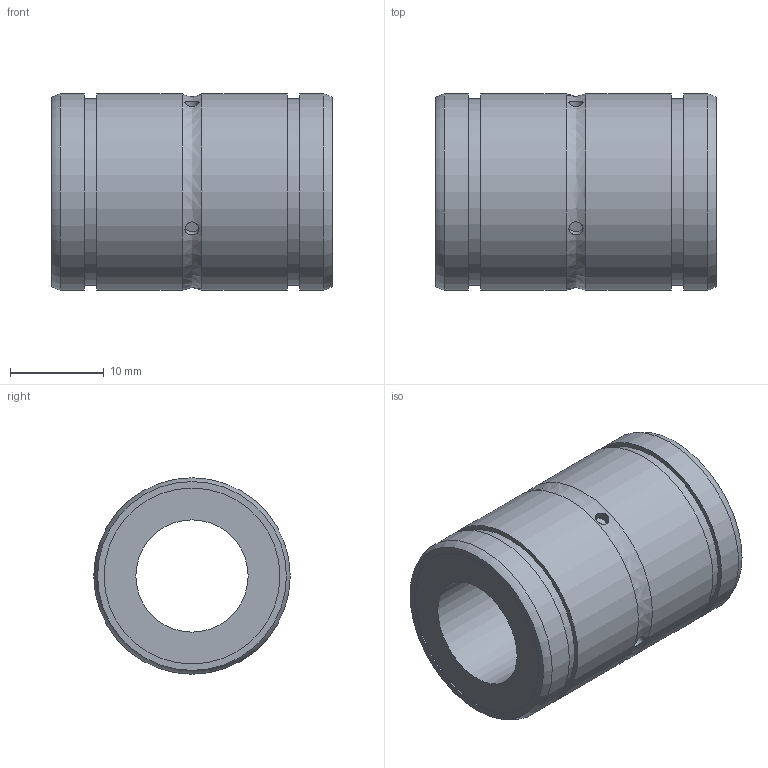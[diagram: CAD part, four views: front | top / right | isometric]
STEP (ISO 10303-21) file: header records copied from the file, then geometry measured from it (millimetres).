
FILE_DESCRIPTION((''),'2;1');
FILE_NAME('D:\製品 (図面)\カタログ用3D\リニアベアリング関連\STEP形式\L-OH\L12-OH.stp','2010-06-04T09:29:34',('Tsuchiya'),(''),'Autodesk Inventor 10','Autodesk Inventor 10','');
FILE_SCHEMA(('AUTOMOTIVE_DESIGN { 1 0 10303 214 1 1 1 1 }'));
Length unit declared in the file: millimetre
Products named in the file (1): L12-OH
Bounding box: 30 x 21 x 21 mm (x, y, z)
Volume: 6826.1 mm3; surface area: 3679.6 mm2
Topology: 1 solids, 1 shells, 28 faces, 48 edges, 32 vertices
Faces by surface type: cylinder 13, plane 8, bspline 5, torus 2
Full cylindrical faces by diameter (mm): 12 x1, 18.8 x2, 20 x2, 21 x4
Entity records: 1029 total; most frequent: CARTESIAN_POINT 567, DIRECTION 88, ORIENTED_EDGE 56, EDGE_LOOP 56, AXIS2_PLACEMENT_3D 44, VERTEX_POINT 28, EDGE_CURVE 28, FACE_OUTER_BOUND 28
